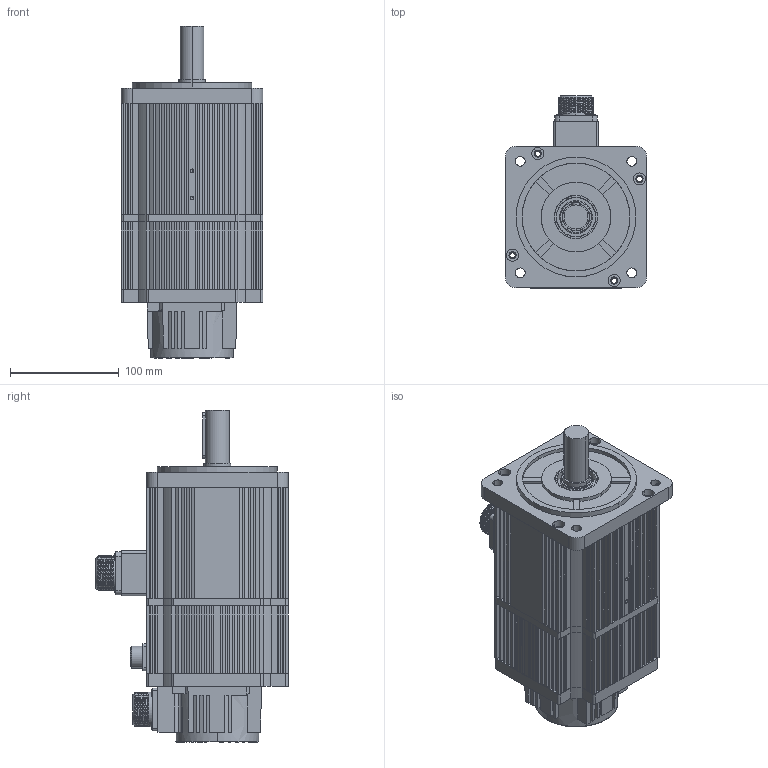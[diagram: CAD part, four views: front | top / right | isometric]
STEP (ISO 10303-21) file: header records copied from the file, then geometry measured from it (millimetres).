
FILE_DESCRIPTION (( 'STEP AP203' ), '1' );
FILE_NAME ('1.3kW.STEP', '2010-03-08T22:51:35', ( '' ), ( '' ), 'SwSTEP 2.0', 'SolidWorks 2011', '' );
FILE_SCHEMA (( 'CONFIG_CONTROL_DESIGN' ));
Products named in the file (1): 1.3kW
Bounding box: 130 x 176.5 x 305 mm (x, y, z)
Volume: 1222324.3 mm3; surface area: 530932.4 mm2
Topology: 15 solids, 19 shells, 1805 faces, 5243 edges, 3439 vertices
Faces by surface type: plane 1031, cylinder 602, bspline 72, sphere 50, cone 36, torus 14
Entity records: 69063 total; most frequent: CARTESIAN_POINT 21998, ORIENTED_EDGE 10074, DIRECTION 9441, EDGE_CURVE 5037, VERTEX_POINT 3339, LINE 3257, VECTOR 3257, AXIS2_PLACEMENT_3D 3092
